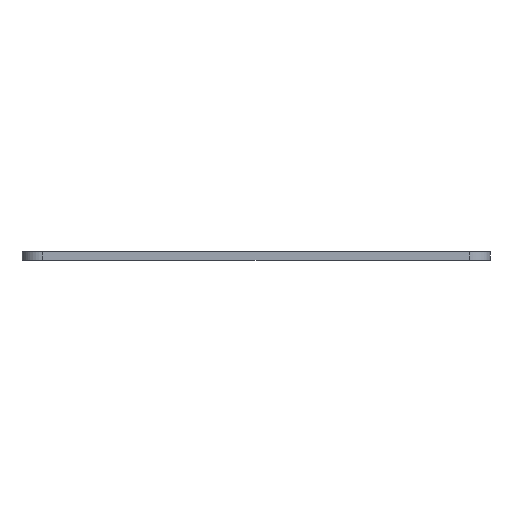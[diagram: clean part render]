
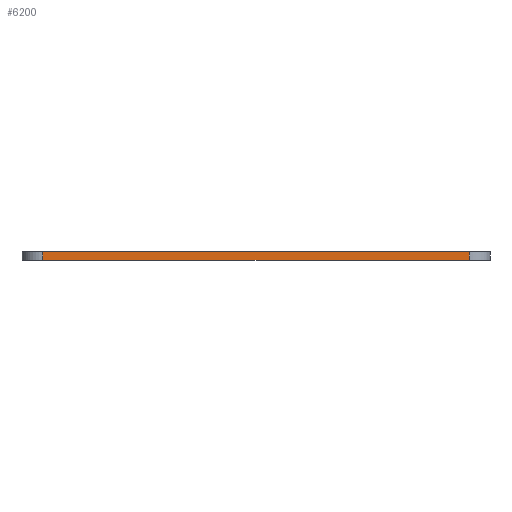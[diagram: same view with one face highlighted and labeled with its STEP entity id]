
A CAD part, front view. The second image highlights one B-rep face of the part: STEP entity #6200.
In plain terms, the highlighted free-form (B-spline) face has degree [1, 1] with [2, 2] control points.
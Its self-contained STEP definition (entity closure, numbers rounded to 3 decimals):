
#72 = B_SPLINE_SURFACE_WITH_KNOTS('',1,1,(
    (#73,#74)
    ,(#75,#76
    )),.UNSPECIFIED.,.F.,.F.,.F.,(2,2),(2,2),(0.,68.),(0.,100.264),
  .PIECEWISE_BEZIER_KNOTS.);
#73 = CARTESIAN_POINT('',(0.,0.,1.2));
#74 = CARTESIAN_POINT('',(0.,100.264,1.2));
#75 = CARTESIAN_POINT('',(68.,0.,1.2));
#76 = CARTESIAN_POINT('',(68.,100.264,1.2));
#124 = B_SPLINE_SURFACE_WITH_KNOTS('',1,1,(
    (#125,#126)
    ,(#127,#128
    )),.UNSPECIFIED.,.F.,.F.,.F.,(2,2),(2,2),(0.,68.),(0.,100.264),
  .PIECEWISE_BEZIER_KNOTS.);
#125 = CARTESIAN_POINT('',(0.,0.,0.));
#126 = CARTESIAN_POINT('',(0.,100.264,0.));
#127 = CARTESIAN_POINT('',(68.,0.,0.));
#128 = CARTESIAN_POINT('',(68.,100.264,0.));
#244 = ( BOUNDED_SURFACE() B_SPLINE_SURFACE(2,1,(
    (#245,#246)
    ,(#247,#248)
,(#249,#250
    )),.UNSPECIFIED.,.F.,.F.,.F.) B_SPLINE_SURFACE_WITH_KNOTS((3,3),(2,2
    ),(0.,1.571),(-1.04,0.),.PIECEWISE_BEZIER_KNOTS.) 
GEOMETRIC_REPRESENTATION_ITEM() RATIONAL_B_SPLINE_SURFACE((
    (1.,1.)
    ,(0.707,0.707)
,(1.,1.))) REPRESENTATION_ITEM('') SURFACE() );
#245 = CARTESIAN_POINT('',(68.,3.,1.2));
#246 = CARTESIAN_POINT('',(68.,3.,0.));
#247 = CARTESIAN_POINT('',(68.,0.,1.2));
#248 = CARTESIAN_POINT('',(68.,0.,0.));
#249 = CARTESIAN_POINT('',(65.,0.,1.2));
#250 = CARTESIAN_POINT('',(65.,0.,0.));
#330 = VERTEX_POINT('',#331);
#331 = CARTESIAN_POINT('',(3.,0.,0.));
#345 = ( BOUNDED_SURFACE() B_SPLINE_SURFACE(2,1,(
    (#346,#347)
    ,(#348,#349)
,(#350,#351
    )),.UNSPECIFIED.,.F.,.F.,.F.) B_SPLINE_SURFACE_WITH_KNOTS((3,3),(2,2
    ),(0.,1.571),(-1.04,0.),.PIECEWISE_BEZIER_KNOTS.) 
GEOMETRIC_REPRESENTATION_ITEM() RATIONAL_B_SPLINE_SURFACE((
    (1.,1.)
    ,(0.707,0.707)
,(1.,1.))) REPRESENTATION_ITEM('') SURFACE() );
#346 = CARTESIAN_POINT('',(3.,0.,1.2));
#347 = CARTESIAN_POINT('',(3.,0.,0.));
#348 = CARTESIAN_POINT('',(0.,0.,1.2));
#349 = CARTESIAN_POINT('',(0.,0.,0.));
#350 = CARTESIAN_POINT('',(0.,3.,1.2));
#351 = CARTESIAN_POINT('',(0.,3.,0.));
#359 = EDGE_CURVE('',#360,#330,#362,.T.);
#360 = VERTEX_POINT('',#361);
#361 = CARTESIAN_POINT('',(65.,0.,0.));
#362 = SURFACE_CURVE('',#363,(#366,#372),.PCURVE_S1.);
#363 = B_SPLINE_CURVE_WITH_KNOTS('',1,(#364,#365),.UNSPECIFIED.,.F.,.F.,
  (2,2),(0.,62.),.PIECEWISE_BEZIER_KNOTS.);
#364 = CARTESIAN_POINT('',(65.,0.,0.));
#365 = CARTESIAN_POINT('',(3.,0.,0.));
#366 = PCURVE('',#124,#367);
#367 = DEFINITIONAL_REPRESENTATION('',(#368),#371);
#368 = B_SPLINE_CURVE_WITH_KNOTS('',1,(#369,#370),.UNSPECIFIED.,.F.,.F.,
  (2,2),(0.,62.),.PIECEWISE_BEZIER_KNOTS.);
#369 = CARTESIAN_POINT('',(65.,0.));
#370 = CARTESIAN_POINT('',(3.,0.));
#371 = ( GEOMETRIC_REPRESENTATION_CONTEXT(2) 
PARAMETRIC_REPRESENTATION_CONTEXT() REPRESENTATION_CONTEXT('2D SPACE',''
  ) );
#372 = PCURVE('',#373,#378);
#373 = B_SPLINE_SURFACE_WITH_KNOTS('',1,1,(
    (#374,#375)
    ,(#376,#377
    )),.UNSPECIFIED.,.F.,.F.,.F.,(2,2),(2,2),(0.,62.),(-1.04,0.),
  .PIECEWISE_BEZIER_KNOTS.);
#374 = CARTESIAN_POINT('',(65.,0.,1.2));
#375 = CARTESIAN_POINT('',(65.,0.,0.));
#376 = CARTESIAN_POINT('',(3.,0.,1.2));
#377 = CARTESIAN_POINT('',(3.,0.,0.));
#378 = DEFINITIONAL_REPRESENTATION('',(#379),#382);
#379 = B_SPLINE_CURVE_WITH_KNOTS('',1,(#380,#381),.UNSPECIFIED.,.F.,.F.,
  (2,2),(0.,62.),.PIECEWISE_BEZIER_KNOTS.);
#380 = CARTESIAN_POINT('',(0.,-0.));
#381 = CARTESIAN_POINT('',(62.,0.));
#382 = ( GEOMETRIC_REPRESENTATION_CONTEXT(2) 
PARAMETRIC_REPRESENTATION_CONTEXT() REPRESENTATION_CONTEXT('2D SPACE',''
  ) );
#3731 = VERTEX_POINT('',#3732);
#3732 = CARTESIAN_POINT('',(3.,0.,1.2));
#3753 = EDGE_CURVE('',#3754,#3731,#3756,.T.);
#3754 = VERTEX_POINT('',#3755);
#3755 = CARTESIAN_POINT('',(65.,0.,1.2));
#3756 = SURFACE_CURVE('',#3757,(#3760,#3766),.PCURVE_S1.);
#3757 = B_SPLINE_CURVE_WITH_KNOTS('',1,(#3758,#3759),.UNSPECIFIED.,.F.,
  .F.,(2,2),(0.,62.),.PIECEWISE_BEZIER_KNOTS.);
#3758 = CARTESIAN_POINT('',(65.,0.,1.2));
#3759 = CARTESIAN_POINT('',(3.,0.,1.2));
#3760 = PCURVE('',#72,#3761);
#3761 = DEFINITIONAL_REPRESENTATION('',(#3762),#3765);
#3762 = B_SPLINE_CURVE_WITH_KNOTS('',1,(#3763,#3764),.UNSPECIFIED.,.F.,
  .F.,(2,2),(0.,62.),.PIECEWISE_BEZIER_KNOTS.);
#3763 = CARTESIAN_POINT('',(65.,0.));
#3764 = CARTESIAN_POINT('',(3.,0.));
#3765 = ( GEOMETRIC_REPRESENTATION_CONTEXT(2) 
PARAMETRIC_REPRESENTATION_CONTEXT() REPRESENTATION_CONTEXT('2D SPACE',''
  ) );
#3766 = PCURVE('',#373,#3767);
#3767 = DEFINITIONAL_REPRESENTATION('',(#3768),#3771);
#3768 = B_SPLINE_CURVE_WITH_KNOTS('',1,(#3769,#3770),.UNSPECIFIED.,.F.,
  .F.,(2,2),(0.,62.),.PIECEWISE_BEZIER_KNOTS.);
#3769 = CARTESIAN_POINT('',(0.,-1.04));
#3770 = CARTESIAN_POINT('',(62.,-1.04));
#3771 = ( GEOMETRIC_REPRESENTATION_CONTEXT(2) 
PARAMETRIC_REPRESENTATION_CONTEXT() REPRESENTATION_CONTEXT('2D SPACE',''
  ) );
#6156 = EDGE_CURVE('',#360,#3754,#6157,.T.);
#6157 = SURFACE_CURVE('',#6158,(#6161,#6168),.PCURVE_S1.);
#6158 = B_SPLINE_CURVE_WITH_KNOTS('',1,(#6159,#6160),.UNSPECIFIED.,.F.,
  .F.,(2,2),(0.,1.04),.PIECEWISE_BEZIER_KNOTS.);
#6159 = CARTESIAN_POINT('',(65.,0.,0.));
#6160 = CARTESIAN_POINT('',(65.,0.,1.2));
#6161 = PCURVE('',#244,#6162);
#6162 = DEFINITIONAL_REPRESENTATION('',(#6163),#6167);
#6163 = B_SPLINE_CURVE_WITH_KNOTS('',2,(#6164,#6165,#6166),
  .UNSPECIFIED.,.F.,.F.,(3,3),(0.,1.04),.PIECEWISE_BEZIER_KNOTS.);
#6164 = CARTESIAN_POINT('',(1.571,0.));
#6165 = CARTESIAN_POINT('',(1.571,-0.52));
#6166 = CARTESIAN_POINT('',(1.571,-1.04));
#6167 = ( GEOMETRIC_REPRESENTATION_CONTEXT(2) 
PARAMETRIC_REPRESENTATION_CONTEXT() REPRESENTATION_CONTEXT('2D SPACE',''
  ) );
#6168 = PCURVE('',#373,#6169);
#6169 = DEFINITIONAL_REPRESENTATION('',(#6170),#6173);
#6170 = B_SPLINE_CURVE_WITH_KNOTS('',1,(#6171,#6172),.UNSPECIFIED.,.F.,
  .F.,(2,2),(0.,1.04),.PIECEWISE_BEZIER_KNOTS.);
#6171 = CARTESIAN_POINT('',(0.,-0.));
#6172 = CARTESIAN_POINT('',(0.,-1.04));
#6173 = ( GEOMETRIC_REPRESENTATION_CONTEXT(2) 
PARAMETRIC_REPRESENTATION_CONTEXT() REPRESENTATION_CONTEXT('2D SPACE',''
  ) );
#6200 = ADVANCED_FACE('',(#6201),#373,.T.);
#6201 = FACE_BOUND('',#6202,.T.);
#6202 = EDGE_LOOP('',(#6203,#6204,#6205,#6224));
#6203 = ORIENTED_EDGE('',*,*,#6156,.T.);
#6204 = ORIENTED_EDGE('',*,*,#3753,.T.);
#6205 = ORIENTED_EDGE('',*,*,#6206,.F.);
#6206 = EDGE_CURVE('',#330,#3731,#6207,.T.);
#6207 = SURFACE_CURVE('',#6208,(#6211,#6217),.PCURVE_S1.);
#6208 = B_SPLINE_CURVE_WITH_KNOTS('',1,(#6209,#6210),.UNSPECIFIED.,.F.,
  .F.,(2,2),(0.,1.04),.PIECEWISE_BEZIER_KNOTS.);
#6209 = CARTESIAN_POINT('',(3.,0.,0.));
#6210 = CARTESIAN_POINT('',(3.,0.,1.2));
#6211 = PCURVE('',#373,#6212);
#6212 = DEFINITIONAL_REPRESENTATION('',(#6213),#6216);
#6213 = B_SPLINE_CURVE_WITH_KNOTS('',1,(#6214,#6215),.UNSPECIFIED.,.F.,
  .F.,(2,2),(0.,1.04),.PIECEWISE_BEZIER_KNOTS.);
#6214 = CARTESIAN_POINT('',(62.,0.));
#6215 = CARTESIAN_POINT('',(62.,-1.04));
#6216 = ( GEOMETRIC_REPRESENTATION_CONTEXT(2) 
PARAMETRIC_REPRESENTATION_CONTEXT() REPRESENTATION_CONTEXT('2D SPACE',''
  ) );
#6217 = PCURVE('',#345,#6218);
#6218 = DEFINITIONAL_REPRESENTATION('',(#6219),#6223);
#6219 = B_SPLINE_CURVE_WITH_KNOTS('',2,(#6220,#6221,#6222),
  .UNSPECIFIED.,.F.,.F.,(3,3),(0.,1.04),.PIECEWISE_BEZIER_KNOTS.);
#6220 = CARTESIAN_POINT('',(0.,0.));
#6221 = CARTESIAN_POINT('',(0.,-0.52));
#6222 = CARTESIAN_POINT('',(0.,-1.04));
#6223 = ( GEOMETRIC_REPRESENTATION_CONTEXT(2) 
PARAMETRIC_REPRESENTATION_CONTEXT() REPRESENTATION_CONTEXT('2D SPACE',''
  ) );
#6224 = ORIENTED_EDGE('',*,*,#359,.F.);
